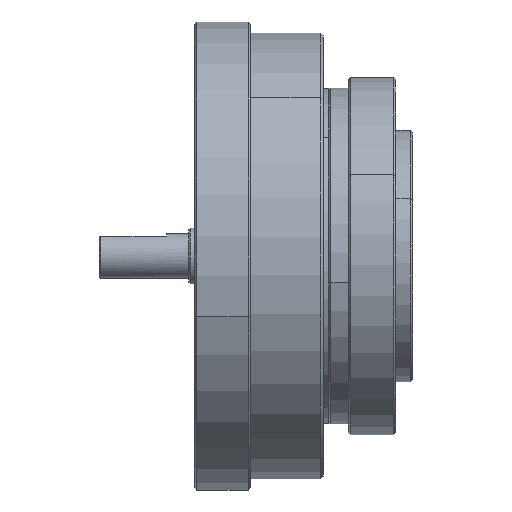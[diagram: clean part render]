
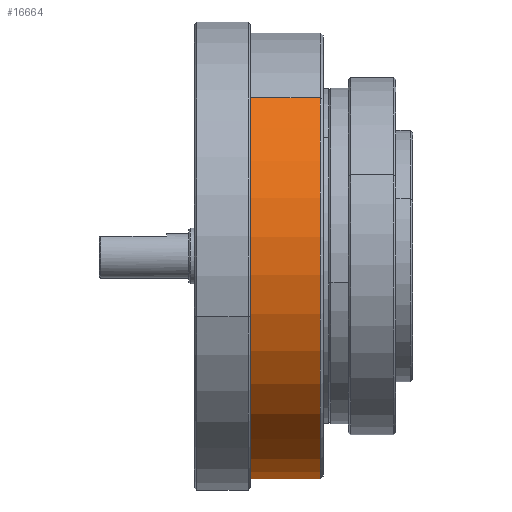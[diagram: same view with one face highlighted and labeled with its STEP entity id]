
A CAD part, front view. The second image highlights one B-rep face of the part: STEP entity #16664.
In plain terms, the highlighted cylindrical face has radius 40 mm (diameter 80 mm), a partial arc.
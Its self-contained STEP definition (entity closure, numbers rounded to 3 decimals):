
#297 = FACE_OUTER_BOUND ( 'NONE', #15107, .T. ) ;
#527 = CARTESIAN_POINT ( 'NONE',  ( -27.938, 28.284, -28.284 ) ) ;
#1024 = CARTESIAN_POINT ( 'NONE',  ( -12.938, 0., 0. ) ) ;
#1428 = ORIENTED_EDGE ( 'NONE', *, *, #13252, .F. ) ;
#1613 = VERTEX_POINT ( 'NONE', #6424 ) ;
#1873 = VECTOR ( 'NONE', #19105, 1000. ) ;
#2112 = ORIENTED_EDGE ( 'NONE', *, *, #18571, .T. ) ;
#2613 = DIRECTION ( 'NONE',  ( 0., 0.707, -0.707 ) ) ;
#4592 = VECTOR ( 'NONE', #15176, 1000. ) ;
#4609 = VERTEX_POINT ( 'NONE', #6158 ) ;
#4979 = ORIENTED_EDGE ( 'NONE', *, *, #8464, .T. ) ;
#5095 = LINE ( 'NONE', #11979, #4592 ) ;
#5474 = AXIS2_PLACEMENT_3D ( 'NONE', #14542, #12949, #9815 ) ;
#5837 = CARTESIAN_POINT ( 'NONE',  ( -12.938, -28.284, 28.284 ) ) ;
#6158 = CARTESIAN_POINT ( 'NONE',  ( -27.938, -28.284, 28.284 ) ) ;
#6183 = CIRCLE ( 'NONE', #10786, 40. ) ;
#6424 = CARTESIAN_POINT ( 'NONE',  ( -12.938, 28.284, -28.284 ) ) ;
#7730 = CYLINDRICAL_SURFACE ( 'NONE', #5474, 40. ) ;
#8214 = DIRECTION ( 'NONE',  ( 1., 0., 0. ) ) ;
#8464 = EDGE_CURVE ( 'NONE', #20080, #4609, #5095, .T. ) ;
#9543 = CARTESIAN_POINT ( 'NONE',  ( -84.752, 28.284, -28.284 ) ) ;
#9592 = VERTEX_POINT ( 'NONE', #527 ) ;
#9815 = DIRECTION ( 'NONE',  ( 0., 0.707, -0.707 ) ) ;
#10786 = AXIS2_PLACEMENT_3D ( 'NONE', #17765, #8214, #19354 ) ;
#11096 = ORIENTED_EDGE ( 'NONE', *, *, #16349, .T. ) ;
#11570 = AXIS2_PLACEMENT_3D ( 'NONE', #1024, #12138, #2613 ) ;
#11979 = CARTESIAN_POINT ( 'NONE',  ( -84.752, -28.284, 28.284 ) ) ;
#12138 = DIRECTION ( 'NONE',  ( -1., 0., 0. ) ) ;
#12949 = DIRECTION ( 'NONE',  ( -1., 0., 0. ) ) ;
#13213 = CIRCLE ( 'NONE', #11570, 40. ) ;
#13252 = EDGE_CURVE ( 'NONE', #1613, #9592, #19826, .T. ) ;
#14542 = CARTESIAN_POINT ( 'NONE',  ( -84.752, 0., 0. ) ) ;
#15107 = EDGE_LOOP ( 'NONE', ( #11096, #4979, #2112, #1428 ) ) ;
#15176 = DIRECTION ( 'NONE',  ( -1., 0., 0. ) ) ;
#16349 = EDGE_CURVE ( 'NONE', #1613, #20080, #13213, .T. ) ;
#16664 = ADVANCED_FACE ( 'NONE', ( #297 ), #7730, .T. ) ;
#17765 = CARTESIAN_POINT ( 'NONE',  ( -27.938, 0., 0. ) ) ;
#18571 = EDGE_CURVE ( 'NONE', #4609, #9592, #6183, .T. ) ;
#19105 = DIRECTION ( 'NONE',  ( -1., 0., 0. ) ) ;
#19354 = DIRECTION ( 'NONE',  ( 0., -0.707, 0.707 ) ) ;
#19826 = LINE ( 'NONE', #9543, #1873 ) ;
#20080 = VERTEX_POINT ( 'NONE', #5837 ) ;
